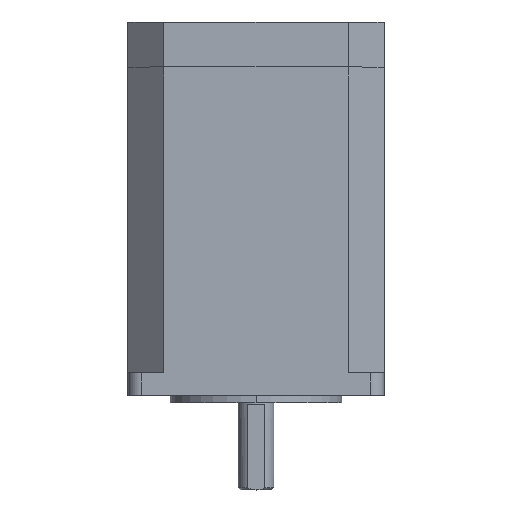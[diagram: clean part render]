
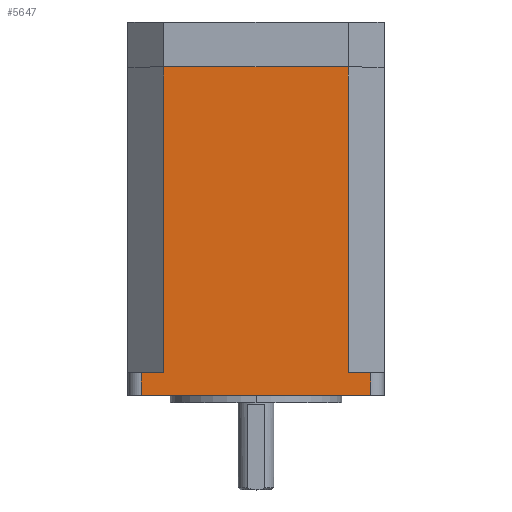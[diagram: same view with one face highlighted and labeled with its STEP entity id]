
A CAD part, top view. The second image highlights one B-rep face of the part: STEP entity #5647.
In plain terms, the highlighted planar face has unit normal (0, 0, 1).
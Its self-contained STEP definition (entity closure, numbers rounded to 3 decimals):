
#93 = CARTESIAN_POINT ( 'NONE',  ( 11.447, -24.991, 36.465 ) ) ;
#139 = VECTOR ( 'NONE', #3346, 1000. ) ;
#185 = AXIS2_PLACEMENT_3D ( 'NONE', #1486, #4161, #4998 ) ;
#235 = DIRECTION ( 'NONE',  ( 0., 1., 0. ) ) ;
#390 = CARTESIAN_POINT ( 'NONE',  ( 16.447, -24.991, 36.465 ) ) ;
#399 = ORIENTED_EDGE ( 'NONE', *, *, #3431, .T. ) ;
#430 = ORIENTED_EDGE ( 'NONE', *, *, #1517, .F. ) ;
#452 = VECTOR ( 'NONE', #3209, 1000. ) ;
#701 = CARTESIAN_POINT ( 'NONE',  ( -29.553, -41.305, 36.465 ) ) ;
#858 = LINE ( 'NONE', #3534, #5641 ) ;
#887 = DIRECTION ( 'NONE',  ( 1., 0., 0. ) ) ;
#1113 = CARTESIAN_POINT ( 'NONE',  ( -34.553, 56.425, 36.465 ) ) ;
#1250 = VERTEX_POINT ( 'NONE', #3291 ) ;
#1318 = VERTEX_POINT ( 'NONE', #93 ) ;
#1366 = FACE_OUTER_BOUND ( 'NONE', #5503, .T. ) ;
#1423 = CARTESIAN_POINT ( 'NONE',  ( 11.447, -41.305, 36.465 ) ) ;
#1424 = EDGE_CURVE ( 'NONE', #1250, #4360, #4322, .T. ) ;
#1453 = EDGE_CURVE ( 'NONE', #4019, #5695, #4271, .T. ) ;
#1486 = CARTESIAN_POINT ( 'NONE',  ( -37.553, 43.009, 36.465 ) ) ;
#1517 = EDGE_CURVE ( 'NONE', #5005, #2965, #858, .T. ) ;
#1553 = EDGE_CURVE ( 'NONE', #4019, #1318, #3941, .T. ) ;
#1653 = DIRECTION ( 'NONE',  ( 0., -1., 0. ) ) ;
#1668 = CARTESIAN_POINT ( 'NONE',  ( -29.553, -24.991, 36.465 ) ) ;
#1827 = ORIENTED_EDGE ( 'NONE', *, *, #1553, .T. ) ;
#1831 = DIRECTION ( 'NONE',  ( -1., 0., 0. ) ) ;
#1889 = ORIENTED_EDGE ( 'NONE', *, *, #2444, .F. ) ;
#2164 = VECTOR ( 'NONE', #5833, 1000. ) ;
#2194 = DIRECTION ( 'NONE',  ( -1., 0., 0. ) ) ;
#2321 = PLANE ( 'NONE',  #185 ) ;
#2434 = VERTEX_POINT ( 'NONE', #1668 ) ;
#2444 = EDGE_CURVE ( 'NONE', #2434, #5005, #5144, .T. ) ;
#2703 = EDGE_CURVE ( 'NONE', #2434, #1250, #5370, .T. ) ;
#2769 = CARTESIAN_POINT ( 'NONE',  ( -29.553, 43.009, 36.465 ) ) ;
#2898 = VECTOR ( 'NONE', #2194, 1000. ) ;
#2965 = VERTEX_POINT ( 'NONE', #3502 ) ;
#3190 = ORIENTED_EDGE ( 'NONE', *, *, #1453, .F. ) ;
#3209 = DIRECTION ( 'NONE',  ( 0., 1., 0. ) ) ;
#3291 = CARTESIAN_POINT ( 'NONE',  ( -34.553, -24.991, 36.465 ) ) ;
#3346 = DIRECTION ( 'NONE',  ( 0., -1., 0. ) ) ;
#3431 = EDGE_CURVE ( 'NONE', #1318, #2965, #5467, .T. ) ;
#3444 = CARTESIAN_POINT ( 'NONE',  ( 16.447, -29.991, 36.465 ) ) ;
#3502 = CARTESIAN_POINT ( 'NONE',  ( 11.447, 43.009, 36.465 ) ) ;
#3534 = CARTESIAN_POINT ( 'NONE',  ( -37.553, 43.009, 36.465 ) ) ;
#3623 = CARTESIAN_POINT ( 'NONE',  ( 11.447, -24.991, 36.465 ) ) ;
#3839 = CARTESIAN_POINT ( 'NONE',  ( -34.553, -29.991, 36.465 ) ) ;
#3876 = ORIENTED_EDGE ( 'NONE', *, *, #4135, .T. ) ;
#3909 = CARTESIAN_POINT ( 'NONE',  ( 16.447, 56.425, 36.465 ) ) ;
#3921 = VECTOR ( 'NONE', #1653, 1000. ) ;
#3941 = LINE ( 'NONE', #3623, #2898 ) ;
#4014 = CARTESIAN_POINT ( 'NONE',  ( -37.553, -29.991, 36.465 ) ) ;
#4019 = VERTEX_POINT ( 'NONE', #390 ) ;
#4135 = EDGE_CURVE ( 'NONE', #4360, #5695, #4548, .T. ) ;
#4161 = DIRECTION ( 'NONE',  ( 0., 0., -1. ) ) ;
#4217 = VECTOR ( 'NONE', #235, 1000. ) ;
#4271 = LINE ( 'NONE', #3909, #3921 ) ;
#4322 = LINE ( 'NONE', #1113, #139 ) ;
#4360 = VERTEX_POINT ( 'NONE', #3839 ) ;
#4548 = LINE ( 'NONE', #4014, #2164 ) ;
#4998 = DIRECTION ( 'NONE',  ( -1., 0., 0. ) ) ;
#4999 = ORIENTED_EDGE ( 'NONE', *, *, #2703, .T. ) ;
#5005 = VERTEX_POINT ( 'NONE', #2769 ) ;
#5144 = LINE ( 'NONE', #701, #4217 ) ;
#5162 = VECTOR ( 'NONE', #1831, 1000. ) ;
#5361 = ORIENTED_EDGE ( 'NONE', *, *, #1424, .T. ) ;
#5370 = LINE ( 'NONE', #5401, #5162 ) ;
#5401 = CARTESIAN_POINT ( 'NONE',  ( -37.553, -24.991, 36.465 ) ) ;
#5467 = LINE ( 'NONE', #1423, #452 ) ;
#5503 = EDGE_LOOP ( 'NONE', ( #1889, #4999, #5361, #3876, #3190, #1827, #399, #430 ) ) ;
#5641 = VECTOR ( 'NONE', #887, 1000. ) ;
#5647 = ADVANCED_FACE ( 'NONE', ( #1366 ), #2321, .F. ) ;
#5695 = VERTEX_POINT ( 'NONE', #3444 ) ;
#5833 = DIRECTION ( 'NONE',  ( 1., 0., 0. ) ) ;
